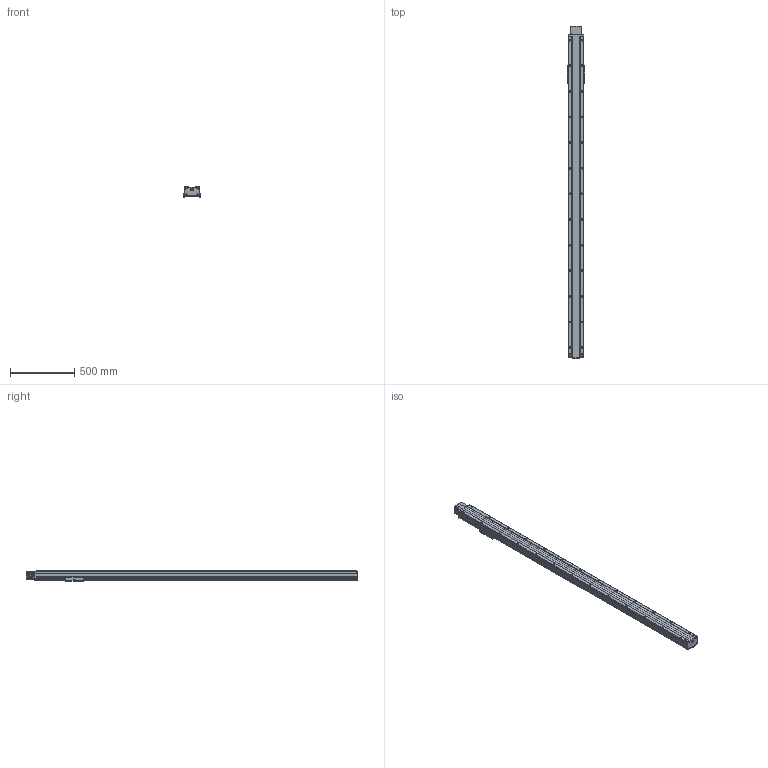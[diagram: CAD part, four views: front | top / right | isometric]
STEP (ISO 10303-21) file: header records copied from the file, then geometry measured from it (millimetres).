
FILE_DESCRIPTION(/* description */ (''),/* implementation_level */ '2;1');
FILE_NAME(/* name */ 'TKB120-FL-2200_asm1_stp.stp',/* time_stamp */ '2016-06-28T15:41:26+08:00',/* author */ (''),/* organization */ (''),/* preprocessor_version */ 'ST-DEVELOPER v15',/* originating_system */ 'SIEMENS PLM Software NX 8.5',/* authorisation */ '');
FILE_SCHEMA (('AUTOMOTIVE_DESIGN { 1 0 10303 214 3 1 1 1 }'));
Length unit declared in the file: millimetre
Products named in the file (3): 200-2; 200-1; TKB120-FL-2200_asm1_stp
Assembly tree (2 placements, depth 2):
  TKB120-FL-2200_asm1_stp
    200-1
    200-2
Bounding box: 134 x 2591 x 80 mm (x, y, z)
Volume: 6239459.7 mm3; surface area: 2600777.9 mm2
Topology: 2 solids, 3 shells, 896 faces, 2633 edges, 1725 vertices
Faces by surface type: cylinder 453, plane 401, cone 42
Full cylindrical faces by diameter (mm): 2.5 x4, 3.3 x20, 4.2 x4, 4.5 x24, 5 x38, 5.5 x28, 6.6 x6, 6.8 x4, 7.5 x4, 8 x12, 9 x6, 9.75 x56, 10.5 x4, 11 x2, 12 x4, 14 x2, 17 x2, 35 x2, 40 x3, 50 x2, 52 x1
Entity records: 29729 total; most frequent: CARTESIAN_POINT 6597, DIRECTION 4828, ORIENTED_EDGE 4474, EDGE_CURVE 2237, AXIS2_PLACEMENT_3D 1852, VERTEX_POINT 1641, EDGE_LOOP 1396, LINE 1124
